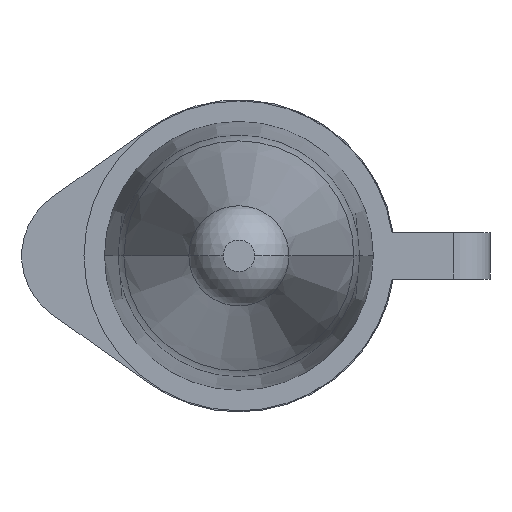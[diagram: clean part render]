
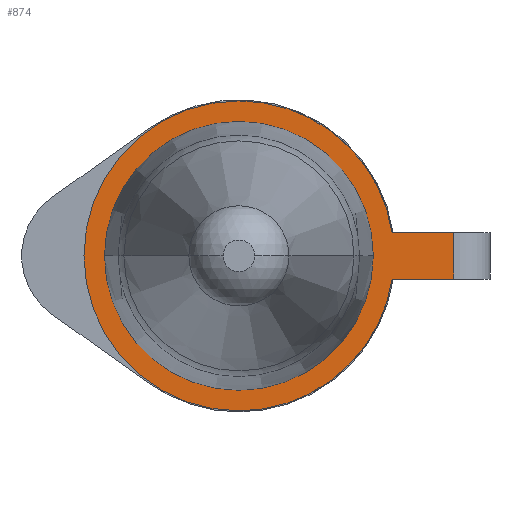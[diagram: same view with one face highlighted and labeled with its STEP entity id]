
A CAD part, front view. The second image highlights one B-rep face of the part: STEP entity #874.
In plain terms, the highlighted planar face has unit normal (0, -1, 0).
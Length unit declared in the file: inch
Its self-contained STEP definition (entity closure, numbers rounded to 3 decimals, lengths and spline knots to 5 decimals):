
#118 = CIRCLE ( 'NONE', #466, 0.1275 ) ;
#130 = FACE_OUTER_BOUND ( 'NONE', #1530, .T. ) ;
#160 = FACE_BOUND ( 'NONE', #744, .T. ) ;
#264 = CARTESIAN_POINT ( 'NONE',  ( 0., -0.044, 0. ) ) ;
#265 = DIRECTION ( 'NONE',  ( 0., 1., 0. ) ) ;
#272 = CARTESIAN_POINT ( 'NONE',  ( 0., -0.044, 0. ) ) ;
#273 = DIRECTION ( 'NONE',  ( 0., 1., 0. ) ) ;
#274 = DIRECTION ( 'NONE',  ( 0., 0., 1. ) ) ;
#280 = DIRECTION ( 'NONE',  ( 0., 0., 1. ) ) ;
#282 = CARTESIAN_POINT ( 'NONE',  ( 0.20394, -0.044, 0.022 ) ) ;
#287 = DIRECTION ( 'NONE',  ( 0., 0., -1. ) ) ;
#289 = DIRECTION ( 'NONE',  ( 0., 1., 0. ) ) ;
#290 = DIRECTION ( 'NONE',  ( 0., 0., 1. ) ) ;
#291 = CARTESIAN_POINT ( 'NONE',  ( 0., -0.044, 0. ) ) ;
#298 = EDGE_CURVE ( 'NONE', #1485, #1519, #727, .T. ) ;
#302 = EDGE_CURVE ( 'NONE', #1722, #1514, #737, .T. ) ;
#309 = EDGE_CURVE ( 'NONE', #1508, #1494, #754, .T. ) ;
#334 = EDGE_CURVE ( 'NONE', #1485, #1709, #792, .T. ) ;
#338 = EDGE_CURVE ( 'NONE', #1514, #1519, #827, .T. ) ;
#347 = EDGE_CURVE ( 'NONE', #1731, #1722, #828, .T. ) ;
#350 = EDGE_CURVE ( 'NONE', #1709, #1731, #826, .T. ) ;
#418 = AXIS2_PLACEMENT_3D ( 'NONE', #264, #265, #280 ) ;
#424 = EDGE_CURVE ( 'NONE', #1494, #1508, #118, .T. ) ;
#425 = AXIS2_PLACEMENT_3D ( 'NONE', #291, #289, #290 ) ;
#429 = AXIS2_PLACEMENT_3D ( 'NONE', #979, #976, #977 ) ;
#440 = AXIS2_PLACEMENT_3D ( 'NONE', #272, #273, #274 ) ;
#466 = AXIS2_PLACEMENT_3D ( 'NONE', #1459, #1448, #1456 ) ;
#529 = AXIS2_PLACEMENT_3D ( 'NONE', #1295, #1291, #1292 ) ;
#621 = CARTESIAN_POINT ( 'NONE',  ( 0.20394, -0.044, -0.022 ) ) ;
#622 = CARTESIAN_POINT ( 'NONE',  ( -0.1275, -0.044, 0. ) ) ;
#628 = CARTESIAN_POINT ( 'NONE',  ( 0.20394, -0.044, 0.022 ) ) ;
#631 = CARTESIAN_POINT ( 'NONE',  ( 0.14534, -0.044, -0.022 ) ) ;
#634 = CARTESIAN_POINT ( 'NONE',  ( 0.1275, -0.044, 0. ) ) ;
#726 = VECTOR ( 'NONE', #1005, 39.37008 ) ;
#727 = LINE ( 'NONE', #1012, #743 ) ;
#737 = LINE ( 'NONE', #997, #726 ) ;
#743 = VECTOR ( 'NONE', #996, 39.37008 ) ;
#744 = EDGE_LOOP ( 'NONE', ( #1176, #1130 ) ) ;
#754 = CIRCLE ( 'NONE', #429, 0.1275 ) ;
#792 = CIRCLE ( 'NONE', #425, 0.147 ) ;
#805 = VECTOR ( 'NONE', #287, 39.37008 ) ;
#826 = CIRCLE ( 'NONE', #440, 0.147 ) ;
#827 = LINE ( 'NONE', #282, #805 ) ;
#828 = CIRCLE ( 'NONE', #418, 0.147 ) ;
#874 = ADVANCED_FACE ( 'NONE', ( #130, #160 ), #1304, .F. ) ;
#976 = DIRECTION ( 'NONE',  ( 0., 1., 0. ) ) ;
#977 = DIRECTION ( 'NONE',  ( -1., 0., 0. ) ) ;
#979 = CARTESIAN_POINT ( 'NONE',  ( 0., -0.044, 0. ) ) ;
#996 = DIRECTION ( 'NONE',  ( 1., 0., 0. ) ) ;
#997 = CARTESIAN_POINT ( 'NONE',  ( 0.13304, -0.044, 0.022 ) ) ;
#1005 = DIRECTION ( 'NONE',  ( 1., 0., 0. ) ) ;
#1012 = CARTESIAN_POINT ( 'NONE',  ( 0.17186, -0.044, -0.022 ) ) ;
#1130 = ORIENTED_EDGE ( 'NONE', *, *, #309, .T. ) ;
#1138 = ORIENTED_EDGE ( 'NONE', *, *, #298, .T. ) ;
#1159 = ORIENTED_EDGE ( 'NONE', *, *, #338, .F. ) ;
#1160 = ORIENTED_EDGE ( 'NONE', *, *, #302, .F. ) ;
#1161 = ORIENTED_EDGE ( 'NONE', *, *, #347, .F. ) ;
#1162 = ORIENTED_EDGE ( 'NONE', *, *, #334, .F. ) ;
#1176 = ORIENTED_EDGE ( 'NONE', *, *, #424, .T. ) ;
#1179 = ORIENTED_EDGE ( 'NONE', *, *, #350, .F. ) ;
#1291 = DIRECTION ( 'NONE',  ( 0., 1., 0. ) ) ;
#1292 = DIRECTION ( 'NONE',  ( 0., 0., 1. ) ) ;
#1295 = CARTESIAN_POINT ( 'NONE',  ( 0., -0.044, 0. ) ) ;
#1304 = PLANE ( 'NONE',  #529 ) ;
#1448 = DIRECTION ( 'NONE',  ( 0., 1., 0. ) ) ;
#1456 = DIRECTION ( 'NONE',  ( -1., 0., 0. ) ) ;
#1459 = CARTESIAN_POINT ( 'NONE',  ( 0., -0.044, 0. ) ) ;
#1485 = VERTEX_POINT ( 'NONE', #631 ) ;
#1494 = VERTEX_POINT ( 'NONE', #622 ) ;
#1508 = VERTEX_POINT ( 'NONE', #634 ) ;
#1514 = VERTEX_POINT ( 'NONE', #628 ) ;
#1519 = VERTEX_POINT ( 'NONE', #621 ) ;
#1530 = EDGE_LOOP ( 'NONE', ( #1162, #1138, #1159, #1160, #1161, #1179 ) ) ;
#1709 = VERTEX_POINT ( 'NONE', #1757 ) ;
#1722 = VERTEX_POINT ( 'NONE', #1763 ) ;
#1731 = VERTEX_POINT ( 'NONE', #1747 ) ;
#1747 = CARTESIAN_POINT ( 'NONE',  ( 0., -0.044, 0.147 ) ) ;
#1757 = CARTESIAN_POINT ( 'NONE',  ( 0., -0.044, -0.147 ) ) ;
#1763 = CARTESIAN_POINT ( 'NONE',  ( 0.14534, -0.044, 0.022 ) ) ;
